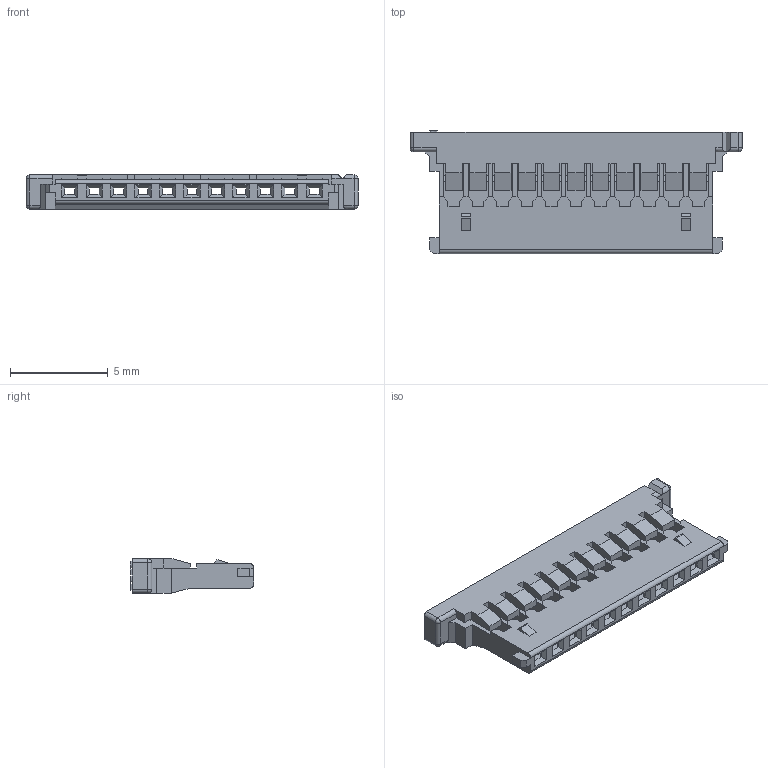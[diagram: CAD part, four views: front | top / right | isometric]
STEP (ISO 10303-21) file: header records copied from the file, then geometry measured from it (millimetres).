
FILE_DESCRIPTION((''),'2;1');
FILE_NAME('S-88232-1100-XX','2013-05-23T',('12239592'),(''),'PRO/ENGINEER BY PARAMETRIC TECHNOLOGY CORPORATION, 2009360','PRO/ENGINEER BY PARAMETRIC TECHNOLOGY CORPORATION, 2009360','');
FILE_SCHEMA(('CONFIG_CONTROL_DESIGN'));
Length unit declared in the file: millimetre
Products named in the file (1): S-88232-1100-XX
Bounding box: 16.97 x 6.3 x 1.75 mm (x, y, z)
Volume: 61.1 mm3; surface area: 522.5 mm2
Topology: 1 solids, 1 shells, 626 faces, 1797 edges, 1154 vertices
Faces by surface type: plane 609, cylinder 13, sphere 4
Entity records: 20008 total; most frequent: CARTESIAN_POINT 3596, ORIENTED_EDGE 3586, DIRECTION 3063, EDGE_CURVE 1793, VECTOR 1767, LINE 1767, VERTEX_POINT 1154, EDGE_LOOP 655
